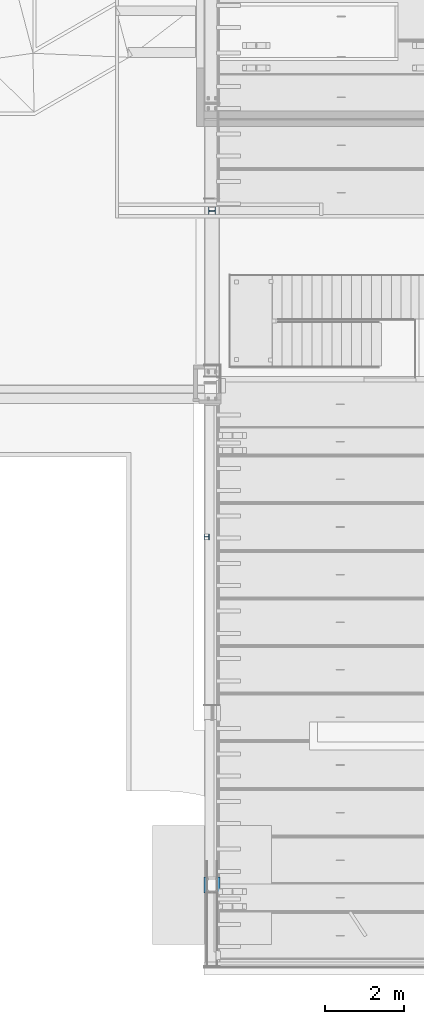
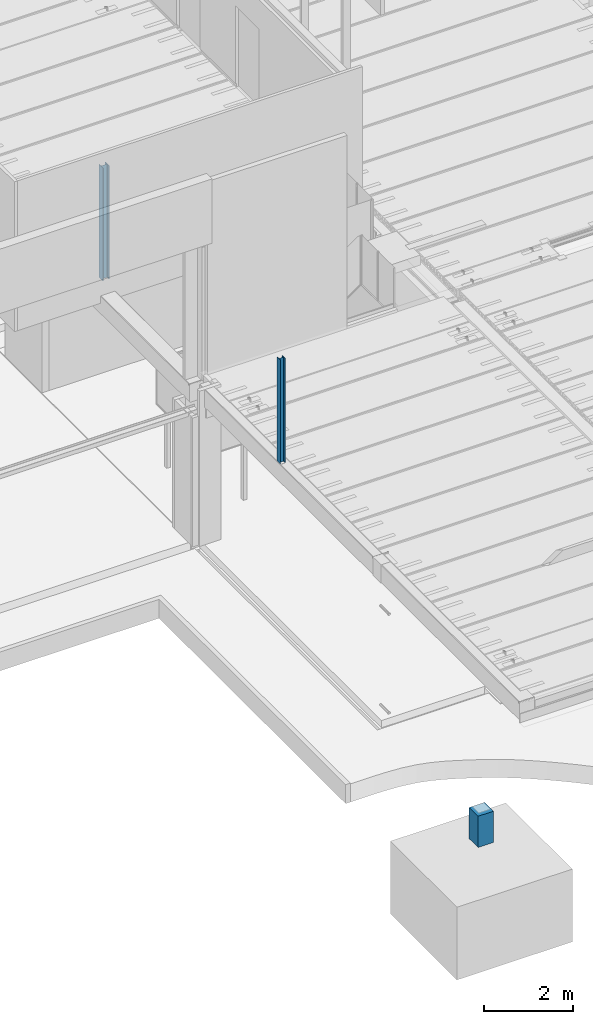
# One storey, part 1 of 230: 3 columns.
"""IFC4X3_ADD2 building model written with IfcOpenShell, lengths in millimetres."""

from ifc_helpers import new_model, si_unit, point, direction, frame, frame_2d, origin_with_axes, place, context, subcontext, project, spatial, polyline, circle_curve, trimmed, segment, composite_curve, rectangle, outline, extrude, source, transform, mapped, material, type_object, type_shapes, element, save


model = new_model("IFC4X3_ADD2")

# Units and contexts
model_context = context("Model", 3, precision=1e-05, world=origin_with_axes(), true_north=direction((0.0, 1.0)))
body_context = subcontext(model_context, "Body", "Model", "MODEL_VIEW")
ifc_project = project(units=[si_unit("LENGTHUNIT", "METRE", prefix="MILLI"), si_unit("AREAUNIT", "SQUARE_METRE"), si_unit("VOLUMEUNIT", "CUBIC_METRE"), si_unit("PLANEANGLEUNIT", "RADIAN"), si_unit("TIMEUNIT", "SECOND"), si_unit("MASSUNIT", "GRAM")], contexts=[model_context])

# Site, building, storey
site_placement = place(None, origin_with_axes())
site = spatial("IfcSite", under=ifc_project, at=site_placement, Name="Site", CompositionType="ELEMENT")
building_placement = place(site_placement, origin_with_axes())
building = spatial("IfcBuilding", under=site, at=building_placement, Name="IFC Building Story")
storey_placement = place(building_placement, origin_with_axes())
storey = spatial("IfcBuildingStorey", under=building, at=storey_placement, Name="ETAGE 00 (0)", Elevation=0.0)

# Columns
ifc_material_1 = material(Name="BS_28_Métal")
column_type_1 = type_object("IfcColumnType", Name="BS_28_SCO_LE_Poteau HE-A_HEA180_3", PredefinedType="NOTDEFINED")
shared_shape_1 = source(origin_with_axes(), body_context, "Body", "SweptSolid", [
    extrude(outline(composite_curve([segment(polyline([(85.5, -90.00000000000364), (76.0, -90.00000000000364)]), True, "CONTINUOUS"), segment(polyline([(76.0, -90.00000000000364), (76.0, -18.00000000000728)]), True, "CONTINUOUS"), segment(trimmed(circle_curve(frame_2d((60.99999999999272, -18.00000000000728), x_axis=(1.0, 0.0)), 15.00000000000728), [point((76.0, -18.00000000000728))], [point((60.99999999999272, -3.000000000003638))], True, "CARTESIAN"), True, "CONTINUOUS"), segment(polyline([(60.99999999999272, -3.000000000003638), (-60.99999999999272, -3.000000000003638)]), True, "CONTINUOUS"), segment(trimmed(circle_curve(frame_2d((-60.99999999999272, -18.00000000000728), x_axis=(1.0, 0.0)), 15.00000000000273), [point((-60.99999999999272, -3.000000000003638))], [point((-75.99999999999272, -18.00000000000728))], True, "CARTESIAN"), True, "CONTINUOUS"), segment(polyline([(-75.99999999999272, -18.00000000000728), (-75.99999999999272, -90.00000000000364)]), True, "CONTINUOUS"), segment(polyline([(-75.99999999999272, -90.00000000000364), (-85.49999999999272, -90.00000000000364)]), True, "CONTINUOUS"), segment(polyline([(-85.49999999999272, -90.00000000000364), (-85.49999999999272, 89.99999999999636)]), True, "CONTINUOUS"), segment(polyline([(-85.49999999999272, 89.99999999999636), (-75.99999999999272, 89.99999999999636)]), True, "CONTINUOUS"), segment(polyline([(-75.99999999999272, 89.99999999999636), (-75.99999999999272, 17.99999999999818)]), True, "CONTINUOUS"), segment(trimmed(circle_curve(frame_2d((-60.99999999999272, 17.99999999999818), x_axis=(1.0, 0.0)), 15.0), [point((-75.99999999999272, 17.99999999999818))], [point((-60.99999999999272, 2.999999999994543))], True, "CARTESIAN"), True, "CONTINUOUS"), segment(polyline([(-60.99999999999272, 2.999999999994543), (60.99999999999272, 2.999999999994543)]), True, "CONTINUOUS"), segment(trimmed(circle_curve(frame_2d((60.99999999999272, 17.99999999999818), x_axis=(1.0, 0.0)), 15.00000000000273), [point((60.99999999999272, 2.999999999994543))], [point((76.0, 17.99999999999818))], True, "CARTESIAN"), True, "CONTINUOUS"), segment(polyline([(76.0, 17.99999999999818), (76.0, 89.99999999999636)]), True, "CONTINUOUS"), segment(polyline([(76.0, 89.99999999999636), (85.5, 89.99999999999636)]), True, "CONTINUOUS"), segment(polyline([(85.5, 89.99999999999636), (85.5, -90.00000000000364)]), True, "CONTINUOUS")], self_intersect=False)), frame((33401.68947816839, 4608.839653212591, 4315.0), z_axis=(0.0, 0.0, 1.0), x_axis=(1.0, 0.0, 0.0)), (0.0, 0.0, 1.0), 3115.0),
])
type_shapes(column_type_1, [shared_shape_1])
column_1_placement = place(storey_placement, origin_with_axes())
element("IfcColumn", 1, at=column_1_placement, inside=storey, type_object=column_type_1, material=ifc_material_1, Name="BS_28_SCO_LE_Poteau HE-A:HEA180", ObjectType="HEA180", context=body_context, shape_type="MappedRepresentation", body=[
    mapped(shared_shape_1, transform((0.0, 0.0, 0.0))),
])
column_type_2 = type_object("IfcColumnType", Name="BS_28_SCO_LE_Poteau HE-A_HEA140_9", PredefinedType="NOTDEFINED")
shared_shape_2 = source(origin_with_axes(), body_context, "Body", "SweptSolid", [
    extrude(outline(composite_curve([segment(polyline([(66.49999999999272, -70.00000000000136), (58.0, -70.00000000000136)]), True, "CONTINUOUS"), segment(polyline([(58.0, -70.00000000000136), (58.0, -14.74999999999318)]), True, "CONTINUOUS"), segment(trimmed(circle_curve(frame_2d((46.00000000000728, -14.74999999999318), x_axis=(1.0, 0.0)), 12.00000000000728), [point((58.0, -14.74999999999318))], [point((46.00000000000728, -2.750000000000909))], True, "CARTESIAN"), True, "CONTINUOUS"), segment(polyline([(46.00000000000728, -2.750000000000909), (-46.00000000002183, -2.750000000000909)]), True, "CONTINUOUS"), segment(trimmed(circle_curve(frame_2d((-46.00000000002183, -14.74999999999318), x_axis=(1.0, 0.0)), 12.000000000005), [point((-46.00000000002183, -2.750000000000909))], [point((-58.00000000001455, -14.74999999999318))], True, "CARTESIAN"), True, "CONTINUOUS"), segment(polyline([(-58.00000000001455, -14.74999999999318), (-58.00000000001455, -70.00000000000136)]), True, "CONTINUOUS"), segment(polyline([(-58.00000000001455, -70.00000000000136), (-66.50000000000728, -70.00000000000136)]), True, "CONTINUOUS"), segment(polyline([(-66.50000000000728, -70.00000000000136), (-66.50000000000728, 69.99999999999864)]), True, "CONTINUOUS"), segment(polyline([(-66.50000000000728, 69.99999999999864), (-58.00000000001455, 69.99999999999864)]), True, "CONTINUOUS"), segment(polyline([(-58.00000000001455, 69.99999999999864), (-58.00000000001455, 14.74999999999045)]), True, "CONTINUOUS"), segment(trimmed(circle_curve(frame_2d((-46.00000000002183, 14.74999999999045), x_axis=(1.0, 0.0)), 12.00000000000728), [point((-58.00000000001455, 14.74999999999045))], [point((-46.00000000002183, 2.749999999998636))], True, "CARTESIAN"), True, "CONTINUOUS"), segment(polyline([(-46.00000000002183, 2.749999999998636), (46.00000000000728, 2.749999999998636)]), True, "CONTINUOUS"), segment(trimmed(circle_curve(frame_2d((46.00000000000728, 14.74999999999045), x_axis=(1.0, 0.0)), 12.000000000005), [point((46.00000000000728, 2.749999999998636))], [point((58.0, 14.74999999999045))], True, "CARTESIAN"), True, "CONTINUOUS"), segment(polyline([(58.0, 14.74999999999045), (58.0, 69.99999999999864)]), True, "CONTINUOUS"), segment(polyline([(58.0, 69.99999999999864), (66.49999999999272, 69.99999999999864)]), True, "CONTINUOUS"), segment(polyline([(66.49999999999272, 69.99999999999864), (66.49999999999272, -70.00000000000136)]), True, "CONTINUOUS")], self_intersect=False)), frame((33267.68934821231, -3606.25100932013, 4290.0), z_axis=(0.0, 0.0, 1.0), x_axis=(1.0, 0.0, 0.0)), (0.0, 0.0, 1.0), 2864.8),
])
type_shapes(column_type_2, [shared_shape_2])
column_2_placement = place(storey_placement, origin_with_axes())
element("IfcColumn", 2, at=column_2_placement, inside=storey, type_object=column_type_2, material=ifc_material_1, Name="BS_28_SCO_LE_Poteau HE-A:HEA140", ObjectType="HEA140", context=body_context, shape_type="MappedRepresentation", body=[
    mapped(shared_shape_2, transform((0.0, 0.0, 0.0))),
])
ifc_material_2 = material(Name="BS_16_Plot en béton armé coulé sur place")
column_type_3 = type_object("IfcColumnType", Name="BS_16_SFO_LE_Colonne rectangulaire_coulé_B.A. 40x40cm3", PredefinedType="NOTDEFINED")
shared_shape_3 = source(origin_with_axes(), body_context, "Body", "SweptSolid", [
    extrude(rectangle(XDim=400.0, YDim=400.0, at=frame_2d((0.0, 5.95523630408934e-12), x_axis=(1.0, 0.0))), frame((33401.6894781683, -12388.486405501, -850.0), z_axis=(0.0, 0.0, 1.0), x_axis=(1.0, 0.0, 0.0)), (0.0, 0.0, 1.0), 860.0),
])
type_shapes(column_type_3, [shared_shape_3])
column_3_placement = place(storey_placement, origin_with_axes())
element("IfcColumn", 3, at=column_3_placement, inside=storey, type_object=column_type_3, material=ifc_material_2, Name="BS_16_SFO_LE_Colonne rectangulaire_coulé:B.A. 40x40cm", ObjectType="B.A. 40x40cm", context=body_context, shape_type="MappedRepresentation", body=[
    mapped(shared_shape_3, transform((0.0, 0.0, 0.0))),
])

save(model, "model.ifc")
